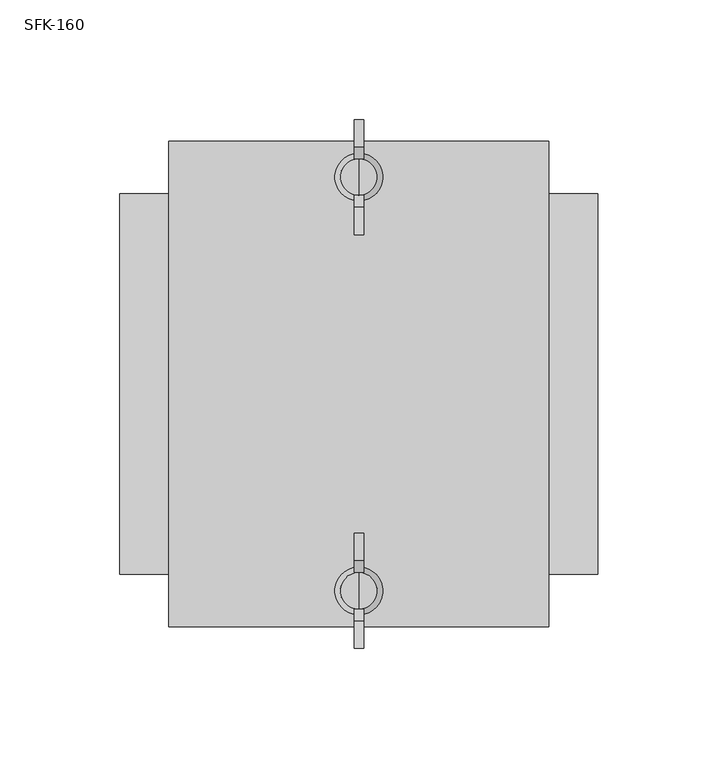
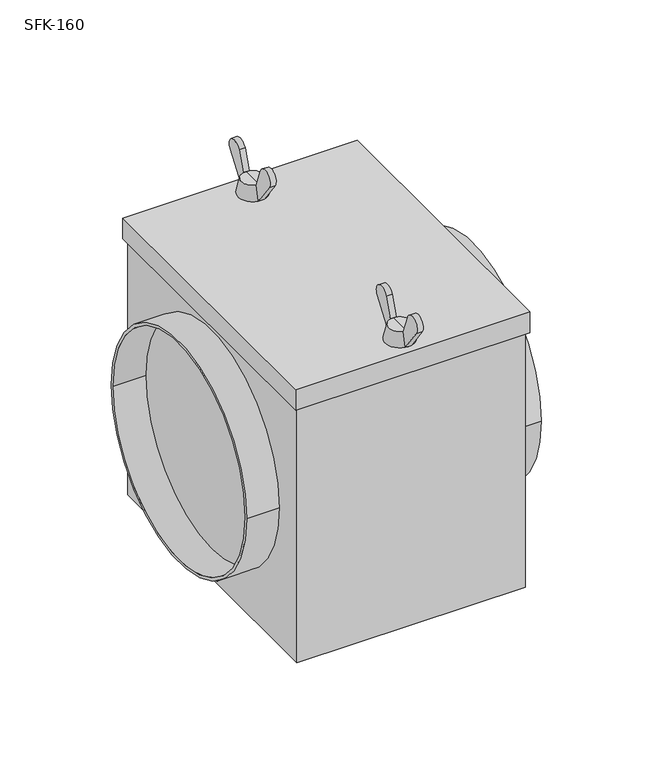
"""IFC4 building model written with IfcOpenShell, lengths in millimetres: damper geometry, СВ_ФильтрКассетный_КанальныйКруглый_DN100-315_SFK : SFK-160."""

from ifc_helpers import new_model, si_unit, point, frame, frame_2d, origin, origin_2d, place, context, project, spatial, polyline, circle_curve, trimmed, segment, composite_curve, outline, extrude, source, transform, mapped, element, save
from ifc_brep_helpers import plane_surface, revolved_surface, advanced_brep


def sfk_160_7e5a682d(model_context):
    return source(origin(), model_context, "Body", "SolidModel", [
        extrude(outline(composite_curve([segment(polyline([(-63.6098085, 116.7418266), (-76.5, 99.0), (-78.8086819, 109.0), (-73.983336, 122.257529)]), True, "CONTINUOUS"), segment(trimmed(circle_curve(frame_2d((-68.4089815, 120.2286299)), 5.9321041), [point((-73.983336, 122.257529))], [point((-63.6098085, 116.7418266))], False, "CARTESIAN"), True, "CONTINUOUS")], self_intersect=False)), frame((-2.0, 0.0, 0.0), z_axis=(1.0, 0.0, 0.0), x_axis=(0.0, 1.0, 0.0)), (0.0, 0.0, 1.0), 4.0),
        extrude(outline(composite_curve([segment(trimmed(circle_curve(frame_2d((-104.5910185, 120.2286299)), 5.9321041), [point((-109.3901915, 116.7418266))], [point((-99.016664, 122.257529))], False, "CARTESIAN"), True, "CONTINUOUS"), segment(polyline([(-99.016664, 122.257529), (-94.1913181, 109.0), (-96.5, 99.0), (-109.3901915, 116.7418266)]), True, "CONTINUOUS")], self_intersect=False)), frame((-2.0, 0.0, 0.0), z_axis=(1.0, 0.0, 0.0), x_axis=(0.0, 1.0, 0.0)), (0.0, 0.0, 1.0), 4.0),
        advanced_brep(
        [(0.0, -94.1913181, 109.0), (0.0, -78.8086819, 109.0), (0.0, -76.5, 99.0), (0.0, -96.5, 99.0), (0.0, -86.5, 109.0), (0.0, -86.5, 99.0)],
        [
            (0, 1, circle_curve(frame((0.0, -86.5, 109.0), z_axis=(0.0, 0.0, -1.0), x_axis=(0.0, 1.0, 0.0)), 7.6913181)),
            (1, 2),
            (2, 3, circle_curve(frame((0.0, -86.5, 99.0), z_axis=(0.0, 0.0, 1.0), x_axis=(0.0, 1.0, 0.0)), 10.0)),
            (3, 0),
            (1, 0, circle_curve(frame((0.0, -86.5, 109.0), z_axis=(0.0, 0.0, -1.0), x_axis=(0.0, 1.0, 0.0)), 7.6913181)),
            (3, 2, circle_curve(frame((0.0, -86.5, 99.0), z_axis=(0.0, 0.0, 1.0), x_axis=(0.0, 1.0, 0.0)), 10.0)),
            (4, 1),
            (0, 4),
            (2, 5),
            (5, 3),
        ],
        [
            revolved_surface(polyline([(0.0, -76.5, 99.0), (0.0, -78.8086819, 109.0)]), (0.0, -86.5, 99.0), (0.0, 0.0, 1.0)),
            plane_surface(frame((0.0, -86.5, 109.0), z_axis=(0.0, 0.0, 1.0), x_axis=(0.0, 1.0, 0.0))),
            plane_surface(frame((0.0, -86.5, 99.0), z_axis=(0.0, 0.0, -1.0), x_axis=(0.0, 1.0, 0.0))),
        ],
        [
            (0, [[1, 2, 3, 4]]),
            (0, [[5, -4, 6, -2]]),
            (1, [[7, -1, 8]]),
            (1, [[-8, -5, -7]]),
            (2, [[-3, 9, 10]]),
            (2, [[-6, -10, -9]]),
        ],
    ),
        extrude(outline(composite_curve([segment(polyline([(109.3901915, 116.7418266), (96.5, 99.0), (94.1913181, 109.0), (99.016664, 122.257529)]), True, "CONTINUOUS"), segment(trimmed(circle_curve(frame_2d((104.5910185, 120.2286299)), 5.9321041), [point((99.016664, 122.257529))], [point((109.3901915, 116.7418266))], False, "CARTESIAN"), True, "CONTINUOUS")], self_intersect=False)), frame((-2.0, 0.0, 0.0), z_axis=(1.0, 0.0, 0.0), x_axis=(0.0, 1.0, 0.0)), (0.0, 0.0, 1.0), 4.0),
        extrude(outline(composite_curve([segment(trimmed(circle_curve(frame_2d((68.4089815, 120.2286299)), 5.9321041), [point((63.6098085, 116.7418266))], [point((73.983336, 122.257529))], False, "CARTESIAN"), True, "CONTINUOUS"), segment(polyline([(73.983336, 122.257529), (78.8086819, 109.0), (76.5, 99.0), (63.6098085, 116.7418266)]), True, "CONTINUOUS")], self_intersect=False)), frame((-2.0, 0.0, 0.0), z_axis=(1.0, 0.0, 0.0), x_axis=(0.0, 1.0, 0.0)), (0.0, 0.0, 1.0), 4.0),
        advanced_brep(
        [(0.0, 78.8086819, 109.0), (0.0, 94.1913181, 109.0), (0.0, 96.5, 99.0), (0.0, 76.5, 99.0), (0.0, 86.5, 109.0), (0.0, 86.5, 99.0)],
        [
            (0, 1, circle_curve(frame((0.0, 86.5, 109.0), z_axis=(0.0, 0.0, -1.0), x_axis=(0.0, 1.0, 0.0)), 7.6913181)),
            (1, 2),
            (2, 3, circle_curve(frame((0.0, 86.5, 99.0), z_axis=(0.0, 0.0, 1.0), x_axis=(0.0, 1.0, 0.0)), 10.0)),
            (3, 0),
            (1, 0, circle_curve(frame((0.0, 86.5, 109.0), z_axis=(0.0, 0.0, -1.0), x_axis=(0.0, 1.0, 0.0)), 7.6913181)),
            (3, 2, circle_curve(frame((0.0, 86.5, 99.0), z_axis=(0.0, 0.0, 1.0), x_axis=(0.0, 1.0, 0.0)), 10.0)),
            (4, 1),
            (0, 4),
            (2, 5),
            (5, 3),
        ],
        [
            revolved_surface(polyline([(0.0, 96.5, 99.0), (0.0, 94.1913181, 109.0)]), (0.0, 86.5, 99.0), (0.0, 0.0, 1.0)),
            plane_surface(frame((0.0, 86.5, 109.0), z_axis=(0.0, 0.0, 1.0), x_axis=(0.0, 1.0, 0.0))),
            plane_surface(frame((0.0, 86.5, 99.0), z_axis=(0.0, 0.0, -1.0), x_axis=(0.0, 1.0, 0.0))),
        ],
        [
            (0, [[1, 2, 3, 4]]),
            (0, [[5, -4, 6, -2]]),
            (1, [[7, -1, 8]]),
            (1, [[-8, -5, -7]]),
            (2, [[-3, 9, 10]]),
            (2, [[-6, -10, -9]]),
        ],
    ),
        extrude(outline(polyline([(-79.5, 101.5), (79.5, 101.5), (79.5, -101.5), (-79.5, -101.5), (-79.5, 101.5)])), frame((0.0, 0.0, 84.0), z_axis=(0.0, 0.0, 1.0), x_axis=(1.0, 0.0, 0.0)), (0.0, 0.0, 1.0), 15.0),
        extrude(outline(polyline([(77.5, -99.5), (-77.5, -99.5), (-77.5, 99.5), (77.5, 99.5), (77.5, -99.5)])), frame((0.0, 0.0, -99.0), z_axis=(0.0, 0.0, 1.0), x_axis=(1.0, 0.0, 0.0)), (0.0, 0.0, 1.0), 183.0),
        extrude(outline(composite_curve([segment(trimmed(circle_curve(origin_2d(), 79.5), [point((-79.5, 0.0))], [point((79.5, 0.0))], False, "CARTESIAN"), True, "CONTINUOUS"), segment(trimmed(circle_curve(origin_2d(), 79.5), [point((79.5, 0.0))], [point((-79.5, 0.0))], False, "CARTESIAN"), True, "CONTINUOUS")], self_intersect=False), holes=[composite_curve([segment(trimmed(circle_curve(origin_2d(), 77.5), [point((-77.5, 0.0))], [point((77.5, 0.0))], True, "CARTESIAN"), True, "CONTINUOUS"), segment(trimmed(circle_curve(origin_2d(), 77.5), [point((77.5, 0.0))], [point((-77.5, 0.0))], True, "CARTESIAN"), True, "CONTINUOUS")], self_intersect=False)]), frame((-100.0, 0.0, 0.0), z_axis=(1.0, 0.0, 0.0), x_axis=(0.0, 1.0, 0.0)), (0.0, 0.0, 1.0), 22.5),
        extrude(outline(composite_curve([segment(trimmed(circle_curve(origin_2d(), 79.5), [point((-79.5, 0.0))], [point((79.5, 0.0))], False, "CARTESIAN"), True, "CONTINUOUS"), segment(trimmed(circle_curve(origin_2d(), 79.5), [point((79.5, 0.0))], [point((-79.5, 0.0))], False, "CARTESIAN"), True, "CONTINUOUS")], self_intersect=False), holes=[composite_curve([segment(trimmed(circle_curve(origin_2d(), 77.5), [point((-77.5, 0.0))], [point((77.5, 0.0))], True, "CARTESIAN"), True, "CONTINUOUS"), segment(trimmed(circle_curve(origin_2d(), 77.5), [point((77.5, 0.0))], [point((-77.5, 0.0))], True, "CARTESIAN"), True, "CONTINUOUS")], self_intersect=False)]), frame((77.5, 0.0, 0.0), z_axis=(1.0, 0.0, 0.0), x_axis=(0.0, 1.0, 0.0)), (0.0, 0.0, 1.0), 22.5),
    ])


if __name__ == "__main__":
    model = new_model("IFC4")
    model_context = context("Model", 3, world=origin())
    ifc_project = project(units=[si_unit("LENGTHUNIT", "METRE", prefix="MILLI")], contexts=[model_context])
    site = spatial("IfcSite", under=ifc_project)
    building = spatial("IfcBuilding", under=site)
    placement = place(None, origin())
    sfk_160_shape = sfk_160_7e5a682d(model_context)
    element("IfcDamper", 1, ObjectType="СВ_ФильтрКассетный_КанальныйКруглый_DN100-315_SFK : SFK-160", at=placement, inside=building, context=model_context, shape_type="MappedRepresentation", body=[
        mapped(sfk_160_shape, transform((0.0, 0.0, 0.0), x_axis=(1.0, 0.0, 0.0), y_axis=(0.0, 1.0, 0.0), z_axis=(0.0, 0.0, 1.0))),
    ])
    save(model, "model.ifc")
